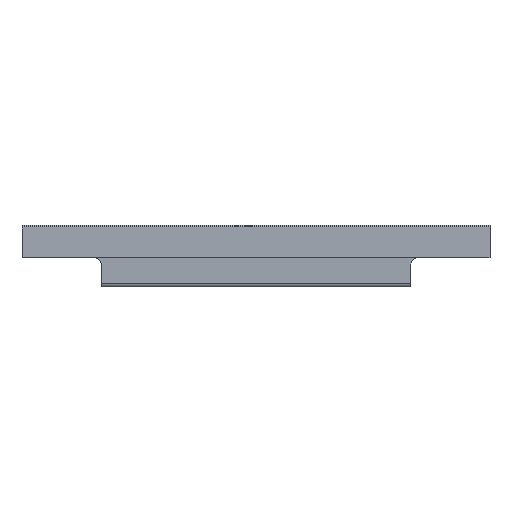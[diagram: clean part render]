
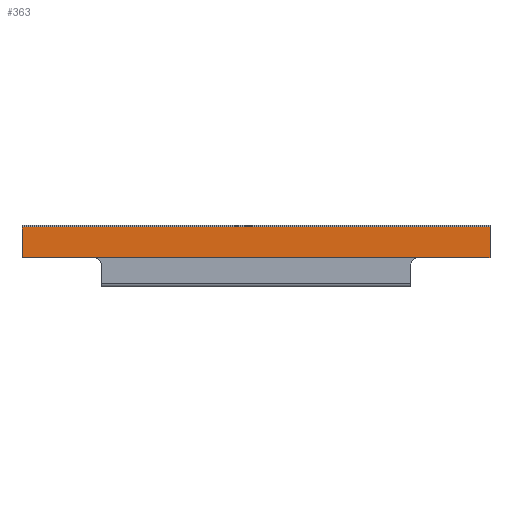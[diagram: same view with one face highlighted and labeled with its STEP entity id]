
A CAD part, top view. The second image highlights one B-rep face of the part: STEP entity #363.
In plain terms, the highlighted planar face has unit normal (0, 0, 1).
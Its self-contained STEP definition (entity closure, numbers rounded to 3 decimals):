
#293 = VERTEX_POINT( '', #768 );
#297 = EDGE_CURVE( '', #633, #479, #772, .T. );
#359 = EDGE_CURVE( '', #619, #293, #839, .T. );
#363 = ADVANCED_FACE( '', ( #843 ), #844, .T. );
#371 = EDGE_CURVE( '', #509, #619, #852, .T. );
#441 = VERTEX_POINT( '', #928 );
#479 = VERTEX_POINT( '', #969 );
#509 = VERTEX_POINT( '', #1001 );
#519 = EDGE_CURVE( '', #293, #441, #1011, .T. );
#599 = EDGE_CURVE( '', #479, #441, #1102, .T. );
#605 = EDGE_CURVE( '', #633, #509, #1108, .T. );
#619 = VERTEX_POINT( '', #1123 );
#633 = VERTEX_POINT( '', #1139 );
#768 = CARTESIAN_POINT( '', ( -102.5, -11., 3. ) );
#772 = LINE( '', #1295, #1296 );
#839 = LINE( '', #1398, #1399 );
#843 = FACE_OUTER_BOUND( '', #1402, .T. );
#844 = PLANE( '', #1403 );
#852 = LINE( '', #1417, #1418 );
#928 = CARTESIAN_POINT( '', ( -147.5, -11., 3. ) );
#969 = CARTESIAN_POINT( '', ( -147.5, 8.286, 3. ) );
#1001 = CARTESIAN_POINT( '', ( 147.5, -11., 3. ) );
#1011 = LINE( '', #1635, #1636 );
#1102 = LINE( '', #1762, #1763 );
#1108 = LINE( '', #1772, #1773 );
#1123 = CARTESIAN_POINT( '', ( 102.5, -11., 3. ) );
#1139 = CARTESIAN_POINT( '', ( 147.5, 8.286, 3. ) );
#1295 = CARTESIAN_POINT( '', ( 147.5, 8.286, 3. ) );
#1296 = VECTOR( '', #1974, 1. );
#1398 = CARTESIAN_POINT( '', ( 147.5, -11., 3. ) );
#1399 = VECTOR( '', #2037, 1. );
#1402 = EDGE_LOOP( '', ( #2040, #2041, #2042, #2043, #2044, #2045 ) );
#1403 = AXIS2_PLACEMENT_3D( '', #2046, #2047, #2048 );
#1417 = CARTESIAN_POINT( '', ( 147.5, -11., 3. ) );
#1418 = VECTOR( '', #2054, 1. );
#1635 = CARTESIAN_POINT( '', ( 147.5, -11., 3. ) );
#1636 = VECTOR( '', #2211, 1. );
#1762 = CARTESIAN_POINT( '', ( -147.5, 8.286, 3. ) );
#1763 = VECTOR( '', #2365, 1. );
#1772 = CARTESIAN_POINT( '', ( 147.5, 8.286, 3. ) );
#1773 = VECTOR( '', #2367, 1. );
#1974 = DIRECTION( '', ( -1., 0., 0. ) );
#2037 = DIRECTION( '', ( -1., 0., 0. ) );
#2040 = ORIENTED_EDGE( '', *, *, #599, .T. );
#2041 = ORIENTED_EDGE( '', *, *, #519, .F. );
#2042 = ORIENTED_EDGE( '', *, *, #359, .F. );
#2043 = ORIENTED_EDGE( '', *, *, #371, .F. );
#2044 = ORIENTED_EDGE( '', *, *, #605, .F. );
#2045 = ORIENTED_EDGE( '', *, *, #297, .T. );
#2046 = CARTESIAN_POINT( '', ( 147.5, 8.286, 3. ) );
#2047 = DIRECTION( '', ( 0., 0., 1. ) );
#2048 = DIRECTION( '', ( 0., 1., 0. ) );
#2054 = DIRECTION( '', ( -1., 0., 0. ) );
#2211 = DIRECTION( '', ( -1., 0., 0. ) );
#2365 = DIRECTION( '', ( 0., -1., 0. ) );
#2367 = DIRECTION( '', ( 0., -1., 0. ) );
